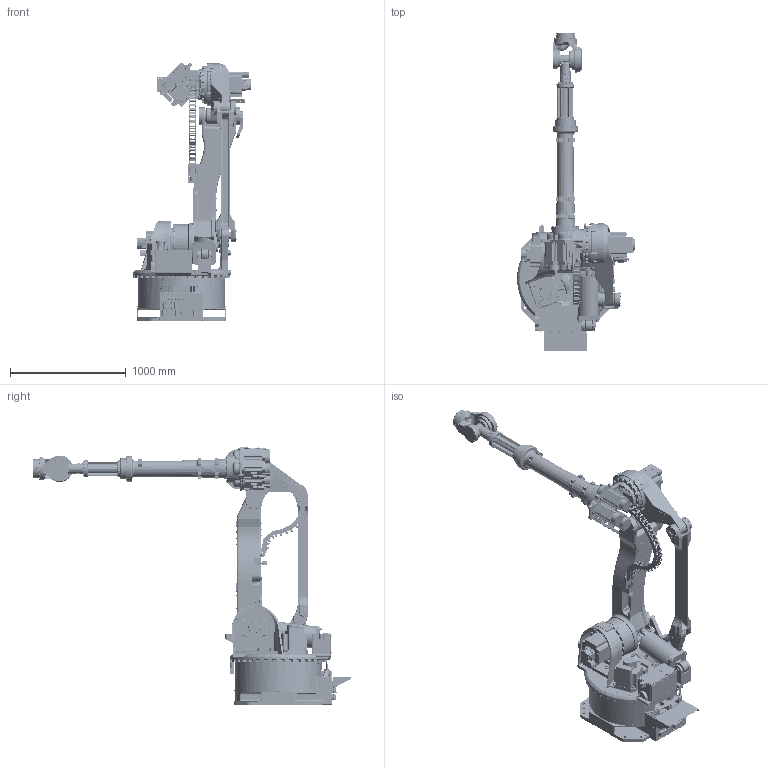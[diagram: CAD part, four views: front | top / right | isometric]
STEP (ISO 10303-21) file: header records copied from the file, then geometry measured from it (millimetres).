
FILE_DESCRIPTION(('CATIA V5 STEP Exchange','CAx-IF Rec.Pracs.--- Composite Materials ---3.4---2017-06-13'),'2;1');
FILE_NAME('D:\モデリング\☆☆☆STEP\ZX\22.04.04_ZX_ASSY_軽量化\Part\Part\step\ZX130L\岩田さん\ZX130L-B001\ZX130L-B001.stp','2022-05-13T06:55:41+00:00',('none'),('none'),'CATIA Version 5-6 Release 2020 SP4 HF11','CATIA V5 STEP AP203 v2','none');
FILE_SCHEMA(('CONFIG_CONTROL_DESIGN'));
Products named in the file (1): ZX130L-B001
Assembly tree (12 placements, depth 2):
  ZX130L-B001
    #57
    #51263
    #168438
    #218664
    #298752
    #324944
    #334201
    #337327
    #370734
    #382799
    #386373
    #387124
Bounding box: 1017.97 x 2740 x 2228.9 mm (x, y, z)
Volume: 362747620.2 mm3; surface area: 15058753.2 mm2
Topology: 19 solids, 19 shells, 11450 faces, 30273 edges, 19030 vertices
Faces by surface type: cylinder 4565, plane 4025, torus 889, bspline 851, cone 415, sphere 387, revolution 208, extrusion 110
Entity records: 425299 total; most frequent: CARTESIAN_POINT 164968, ORIENTED_EDGE 59428, DIRECTION 42164, EDGE_CURVE 29714, AXIS2_PLACEMENT_3D 19053, VERTEX_POINT 19024, VECTOR 13994, LINE 13884
